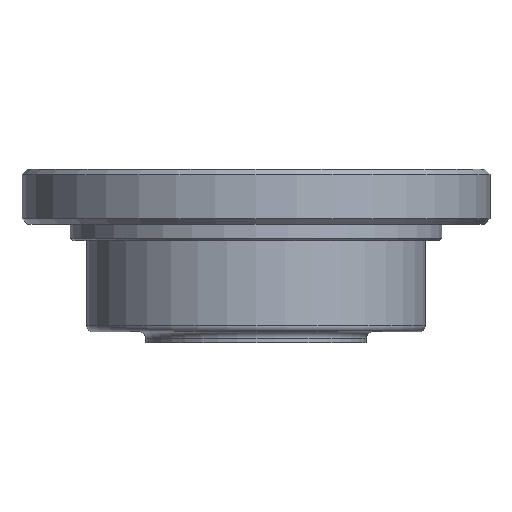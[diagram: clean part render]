
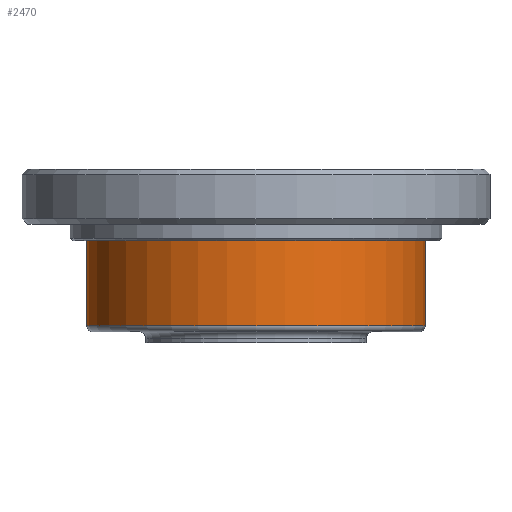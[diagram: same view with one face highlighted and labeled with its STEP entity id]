
A CAD part, left-side view. The second image highlights one B-rep face of the part: STEP entity #2470.
In plain terms, the highlighted cylindrical face has radius 61.5 mm (diameter 123 mm), a partial arc.
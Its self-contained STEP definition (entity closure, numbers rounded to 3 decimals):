
#695 = CARTESIAN_POINT ( 'NONE',  ( -16.733, 0., 0. ) ) ;
#723 = ORIENTED_EDGE ( 'NONE', *, *, #9199, .T. ) ;
#761 = CARTESIAN_POINT ( 'NONE',  ( 40.067, -61.5, 0. ) ) ;
#1425 = VERTEX_POINT ( 'NONE', #3328 ) ;
#1623 = EDGE_CURVE ( 'NONE', #1425, #6780, #2795, .T. ) ;
#2168 = DIRECTION ( 'NONE',  ( 0., 1., 0. ) ) ;
#2187 = EDGE_LOOP ( 'NONE', ( #723, #2387, #9092, #6926 ) ) ;
#2387 = ORIENTED_EDGE ( 'NONE', *, *, #1623, .T. ) ;
#2470 = ADVANCED_FACE ( 'NONE', ( #4605 ), #8485, .T. ) ;
#2795 = LINE ( 'NONE', #8828, #9836 ) ;
#2820 = DIRECTION ( 'NONE',  ( 1., 0., 0. ) ) ;
#2952 = DIRECTION ( 'NONE',  ( 0., 1., 0. ) ) ;
#3179 = EDGE_CURVE ( 'NONE', #6768, #8678, #5121, .T. ) ;
#3328 = CARTESIAN_POINT ( 'NONE',  ( -16.733, -61.5, 0. ) ) ;
#3702 = CARTESIAN_POINT ( 'NONE',  ( 40.067, 0., 0. ) ) ;
#4605 = FACE_OUTER_BOUND ( 'NONE', #2187, .T. ) ;
#4697 = VECTOR ( 'NONE', #2820, 1000. ) ;
#5121 = LINE ( 'NONE', #6528, #4697 ) ;
#5358 = DIRECTION ( 'NONE',  ( 1., 0., 0. ) ) ;
#5865 = DIRECTION ( 'NONE',  ( 1., 0., 0. ) ) ;
#6116 = CARTESIAN_POINT ( 'NONE',  ( 46.267, 0., 0. ) ) ;
#6528 = CARTESIAN_POINT ( 'NONE',  ( 46.267, 61.5, 0. ) ) ;
#6627 = AXIS2_PLACEMENT_3D ( 'NONE', #6116, #9243, #2168 ) ;
#6653 = CIRCLE ( 'NONE', #7917, 61.5 ) ;
#6768 = VERTEX_POINT ( 'NONE', #6833 ) ;
#6780 = VERTEX_POINT ( 'NONE', #761 ) ;
#6833 = CARTESIAN_POINT ( 'NONE',  ( -16.733, 61.5, 0. ) ) ;
#6859 = CIRCLE ( 'NONE', #7015, 61.5 ) ;
#6861 = DIRECTION ( 'NONE',  ( 0., 1., 0. ) ) ;
#6926 = ORIENTED_EDGE ( 'NONE', *, *, #3179, .F. ) ;
#7015 = AXIS2_PLACEMENT_3D ( 'NONE', #3702, #9136, #2952 ) ;
#7841 = CARTESIAN_POINT ( 'NONE',  ( 40.067, 61.5, 0. ) ) ;
#7917 = AXIS2_PLACEMENT_3D ( 'NONE', #695, #5358, #6861 ) ;
#8485 = CYLINDRICAL_SURFACE ( 'NONE', #6627, 61.5 ) ;
#8678 = VERTEX_POINT ( 'NONE', #7841 ) ;
#8828 = CARTESIAN_POINT ( 'NONE',  ( 46.267, -61.5, 0. ) ) ;
#9092 = ORIENTED_EDGE ( 'NONE', *, *, #9368, .F. ) ;
#9136 = DIRECTION ( 'NONE',  ( 1., 0., 0. ) ) ;
#9199 = EDGE_CURVE ( 'NONE', #6768, #1425, #6653, .T. ) ;
#9243 = DIRECTION ( 'NONE',  ( 1., 0., 0. ) ) ;
#9368 = EDGE_CURVE ( 'NONE', #8678, #6780, #6859, .T. ) ;
#9836 = VECTOR ( 'NONE', #5865, 1000. ) ;
